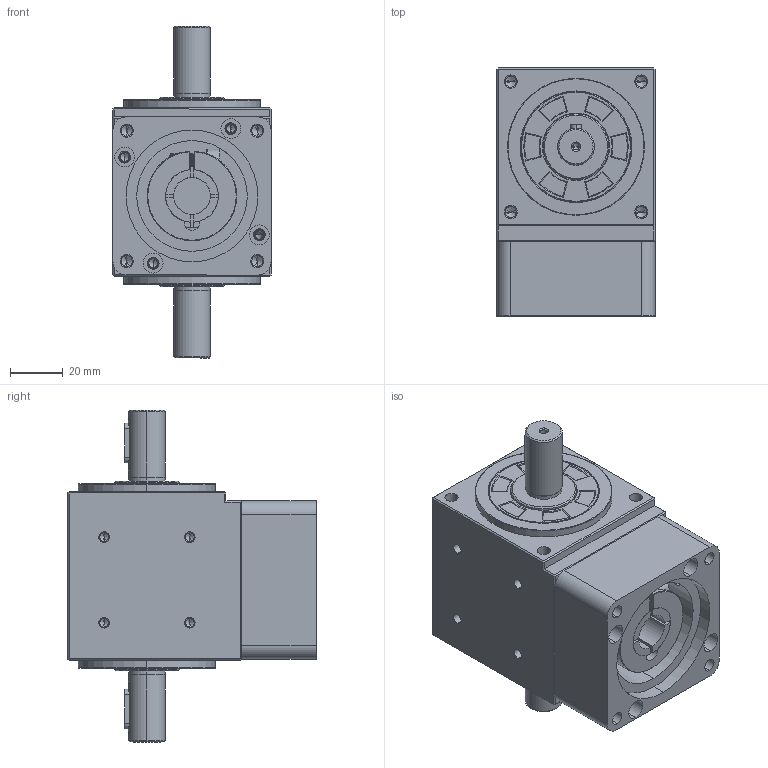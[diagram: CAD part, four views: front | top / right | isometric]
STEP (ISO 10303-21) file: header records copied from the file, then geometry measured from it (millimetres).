
FILE_DESCRIPTION (( 'STEP AP214' ), '1' );
FILE_NAME ('RD60-5(14-50-70-M5).STEP', '2020-10-27T06:30:00', ( '' ), ( '' ), 'SwSTEP 2.0', 'SolidWorks 2016', '' );
FILE_SCHEMA (( 'AUTOMOTIVE_DESIGN' ));
Length unit declared in the file: millimetre
Products named in the file (8): R60-5-(14); RD60-5(14-50-70-M5); R60-25x47x5; R60-25x42x5; SN60-34x20x10.5-M5; RD60-(14x27-4x15); R60-5(50-70-M5); R60
Assembly tree (7 placements, depth 2):
  RD60-5(14-50-70-M5)
    R60
    R60-25x42x5
    R60-25x47x5
    R60-5(50-70-M5)
    RD60-(14x27-4x15)
    R60-5-(14)
    SN60-34x20x10.5-M5
Bounding box: 60 x 94.2 x 126 mm (x, y, z)
Volume: 250309.8 mm3; surface area: 81400.1 mm2
Topology: 8 solids, 8 shells, 660 faces, 1584 edges, 945 vertices
Faces by surface type: cylinder 316, cone 135, plane 132, torus 48, bspline 29
Entity records: 38056 total; most frequent: CARTESIAN_POINT 22491, DIRECTION 3085, ORIENTED_EDGE 3052, EDGE_CURVE 1526, AXIS2_PLACEMENT_3D 1216, VERTEX_POINT 945, EDGE_LOOP 751, FACE_OUTER_BOUND 660
